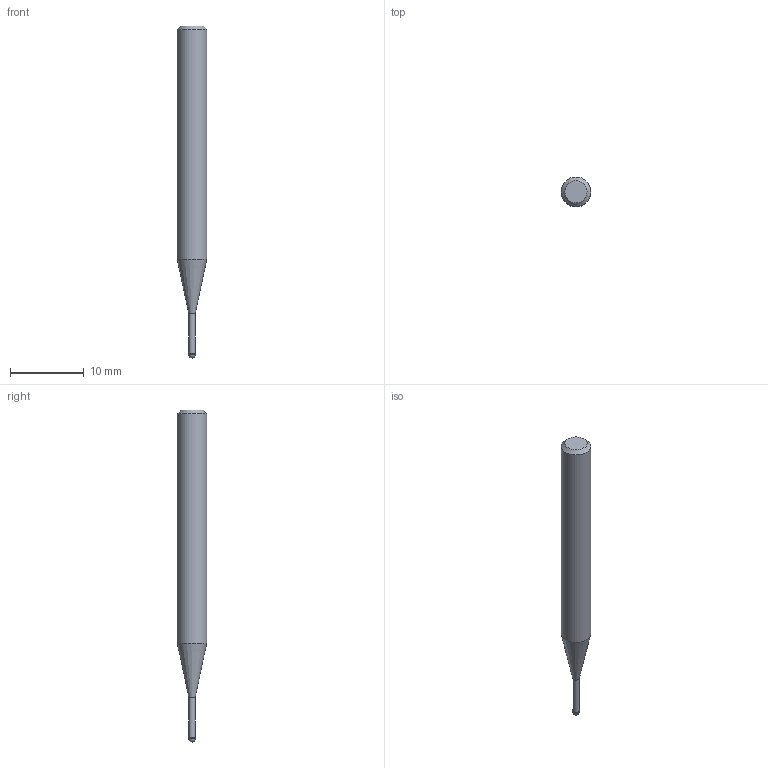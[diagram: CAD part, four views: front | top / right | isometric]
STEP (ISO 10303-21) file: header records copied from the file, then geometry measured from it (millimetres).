
FILE_DESCRIPTION((''),'2;1');
FILE_NAME('C:\Users\nsx150\AppData\Local\Temp\Mastercam 2021\3SYKECWX22\TEMP.step','2021-04-22T10:01:55',(''),(''),'STEP Write','Mastercam 2021 ... CNC Software, Inc.','');
FILE_SCHEMA(('AUTOMOTIVE_DESIGN'));
Length unit declared in the file: millimetre
Products named in the file (1): None
Bounding box: 4 x 4 x 45 mm (x, y, z)
Volume: 438.3 mm3; surface area: 481 mm2
Topology: 2 solids, 2 shells, 9 faces, 14 edges, 8 vertices
Faces by surface type: plane 3, cylinder 3, cone 2, sphere 1
Full cylindrical faces by diameter (mm): 0.86 x1, 0.9 x1, 4 x1
Entity records: 211 total; most frequent: DIRECTION 36, CARTESIAN_POINT 25, AXIS2_PLACEMENT_3D 18, ORIENTED_EDGE 14, EDGE_LOOP 14, STYLED_ITEM 12, ADVANCED_FACE 9, FACE_BOUND 8
